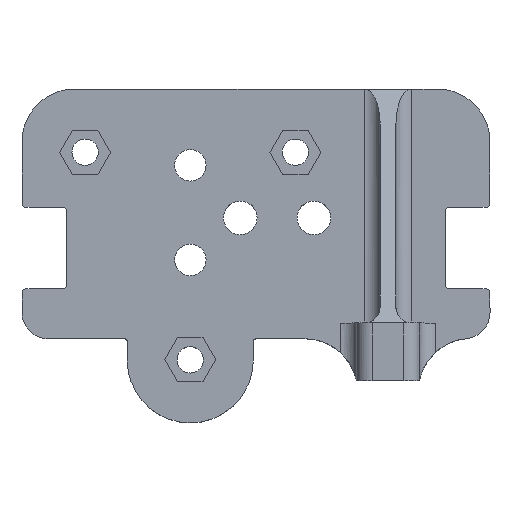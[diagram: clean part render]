
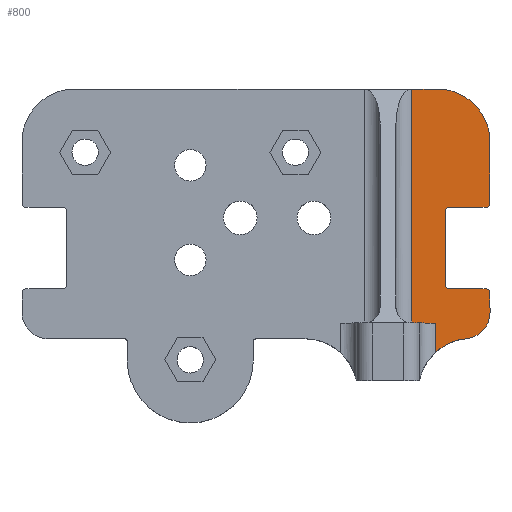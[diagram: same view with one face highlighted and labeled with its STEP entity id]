
A CAD part, top view. The second image highlights one B-rep face of the part: STEP entity #800.
In plain terms, the highlighted planar face has unit normal (0, 0, 1).
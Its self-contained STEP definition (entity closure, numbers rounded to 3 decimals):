
#33 = ORIENTED_EDGE ( 'NONE', *, *, #2331, .T. ) ;
#51 = VECTOR ( 'NONE', #2644, 1000. ) ;
#81 = VERTEX_POINT ( 'NONE', #2176 ) ;
#118 = LINE ( 'NONE', #2879, #51 ) ;
#152 = ORIENTED_EDGE ( 'NONE', *, *, #287, .T. ) ;
#189 = DIRECTION ( 'NONE',  ( 1., 0., 0. ) ) ;
#190 = VERTEX_POINT ( 'NONE', #263 ) ;
#263 = CARTESIAN_POINT ( 'NONE',  ( 36., -13.5, 8. ) ) ;
#286 = AXIS2_PLACEMENT_3D ( 'NONE', #2821, #1043, #297 ) ;
#287 = EDGE_CURVE ( 'NONE', #2500, #2749, #1357, .T. ) ;
#297 = DIRECTION ( 'NONE',  ( 1., 0., 0. ) ) ;
#343 = ORIENTED_EDGE ( 'NONE', *, *, #2914, .T. ) ;
#345 = CARTESIAN_POINT ( 'NONE',  ( 39.5, -18.75, 8. ) ) ;
#381 = VECTOR ( 'NONE', #607, 1000. ) ;
#402 = LINE ( 'NONE', #3190, #2514 ) ;
#466 = EDGE_CURVE ( 'NONE', #490, #3237, #2118, .T. ) ;
#472 = DIRECTION ( 'NONE',  ( -1., 0., 0. ) ) ;
#476 = ORIENTED_EDGE ( 'NONE', *, *, #525, .T. ) ;
#490 = VERTEX_POINT ( 'NONE', #3160 ) ;
#511 = ORIENTED_EDGE ( 'NONE', *, *, #466, .F. ) ;
#525 = EDGE_CURVE ( 'NONE', #1648, #190, #1800, .T. ) ;
#543 = AXIS2_PLACEMENT_3D ( 'NONE', #615, #809, #1362 ) ;
#555 = AXIS2_PLACEMENT_3D ( 'NONE', #345, #1343, #676 ) ;
#607 = DIRECTION ( 'NONE',  ( -1., 0., 0. ) ) ;
#615 = CARTESIAN_POINT ( 'NONE',  ( 36.75, -13.5, 8. ) ) ;
#642 = CARTESIAN_POINT ( 'NONE',  ( 44.5, 2., 8. ) ) ;
#676 = DIRECTION ( 'NONE',  ( 1., 0., 0. ) ) ;
#699 = CARTESIAN_POINT ( 'NONE',  ( 44.5, 2., 8. ) ) ;
#702 = EDGE_CURVE ( 'NONE', #2464, #3237, #118, .T. ) ;
#725 = EDGE_CURVE ( 'NONE', #81, #2464, #834, .T. ) ;
#734 = LINE ( 'NONE', #699, #2564 ) ;
#758 = VERTEX_POINT ( 'NONE', #849 ) ;
#765 = DIRECTION ( 'NONE',  ( -1., 0., 0. ) ) ;
#766 = CARTESIAN_POINT ( 'NONE',  ( 44.5, -18.75, 8. ) ) ;
#800 = ADVANCED_FACE ( 'NONE', ( #3012 ), #2465, .T. ) ;
#808 = VECTOR ( 'NONE', #765, 1000. ) ;
#809 = DIRECTION ( 'NONE',  ( 0., 0., -1. ) ) ;
#834 = LINE ( 'NONE', #3168, #381 ) ;
#849 = CARTESIAN_POINT ( 'NONE',  ( 39.97, -23.728, 8. ) ) ;
#862 = AXIS2_PLACEMENT_3D ( 'NONE', #943, #2993, #1463 ) ;
#867 = AXIS2_PLACEMENT_3D ( 'NONE', #3041, #1770, #1514 ) ;
#881 = CARTESIAN_POINT ( 'NONE',  ( 44.5, -15., 8. ) ) ;
#929 = EDGE_CURVE ( 'NONE', #3221, #1992, #734, .T. ) ;
#943 = CARTESIAN_POINT ( 'NONE',  ( 36.75, 0.5, 8. ) ) ;
#959 = AXIS2_PLACEMENT_3D ( 'NONE', #1404, #2445, #189 ) ;
#963 = AXIS2_PLACEMENT_3D ( 'NONE', #1941, #2493, #472 ) ;
#1005 = CARTESIAN_POINT ( 'NONE',  ( 41., -14.25, 8. ) ) ;
#1029 = LINE ( 'NONE', #1005, #808 ) ;
#1041 = DIRECTION ( 'NONE',  ( 0., 1., 0. ) ) ;
#1043 = DIRECTION ( 'NONE',  ( 0., 0., 1. ) ) ;
#1053 = CARTESIAN_POINT ( 'NONE',  ( 31.1, -20.75, 8. ) ) ;
#1072 = VERTEX_POINT ( 'NONE', #2625 ) ;
#1165 = CARTESIAN_POINT ( 'NONE',  ( 36., 0.5, 8. ) ) ;
#1167 = EDGE_CURVE ( 'NONE', #1977, #2840, #1596, .T. ) ;
#1180 = CIRCLE ( 'NONE', #867, 0.75 ) ;
#1288 = EDGE_CURVE ( 'NONE', #2840, #1072, #2177, .T. ) ;
#1292 = ORIENTED_EDGE ( 'NONE', *, *, #3122, .T. ) ;
#1307 = CARTESIAN_POINT ( 'NONE',  ( 36., 0.5, 8. ) ) ;
#1317 = ORIENTED_EDGE ( 'NONE', *, *, #1420, .T. ) ;
#1343 = DIRECTION ( 'NONE',  ( 0., 0., 1. ) ) ;
#1357 = LINE ( 'NONE', #2435, #2555 ) ;
#1362 = DIRECTION ( 'NONE',  ( -1., 0., 0. ) ) ;
#1365 = EDGE_CURVE ( 'NONE', #1992, #81, #1810, .T. ) ;
#1404 = CARTESIAN_POINT ( 'NONE',  ( -34.5, 13.75, 8. ) ) ;
#1420 = EDGE_CURVE ( 'NONE', #3087, #1648, #1029, .T. ) ;
#1427 = EDGE_CURVE ( 'NONE', #1072, #3221, #1180, .T. ) ;
#1429 = CARTESIAN_POINT ( 'NONE',  ( 36.75, 1.25, 8. ) ) ;
#1463 = DIRECTION ( 'NONE',  ( 1., 0., 0. ) ) ;
#1514 = DIRECTION ( 'NONE',  ( -1., 0., 0. ) ) ;
#1532 = ORIENTED_EDGE ( 'NONE', *, *, #1288, .T. ) ;
#1541 = CIRCLE ( 'NONE', #555, 5. ) ;
#1558 = LINE ( 'NONE', #1307, #2608 ) ;
#1592 = EDGE_LOOP ( 'NONE', ( #2551, #3050, #511, #343, #33, #1292, #152, #1768, #1317, #476, #2375, #2022, #1532, #2998, #2330, #2621 ) ) ;
#1596 = CIRCLE ( 'NONE', #862, 0.75 ) ;
#1648 = VERTEX_POINT ( 'NONE', #2988 ) ;
#1697 = VECTOR ( 'NONE', #2622, 1000. ) ;
#1768 = ORIENTED_EDGE ( 'NONE', *, *, #2376, .T. ) ;
#1770 = DIRECTION ( 'NONE',  ( 0., 0., 1. ) ) ;
#1774 = DIRECTION ( 'NONE',  ( 0., 1., 0. ) ) ;
#1800 = CIRCLE ( 'NONE', #543, 0.75 ) ;
#1810 = CIRCLE ( 'NONE', #286, 10. ) ;
#1851 = EDGE_CURVE ( 'NONE', #190, #1977, #1558, .T. ) ;
#1925 = CARTESIAN_POINT ( 'NONE',  ( 43.75, 1.25, 8. ) ) ;
#1941 = CARTESIAN_POINT ( 'NONE',  ( 43.75, -15., 8. ) ) ;
#1962 = CARTESIAN_POINT ( 'NONE',  ( 29.6, -20.75, 8. ) ) ;
#1977 = VERTEX_POINT ( 'NONE', #1165 ) ;
#1992 = VERTEX_POINT ( 'NONE', #2204 ) ;
#2022 = ORIENTED_EDGE ( 'NONE', *, *, #1167, .T. ) ;
#2026 = VECTOR ( 'NONE', #3215, 1000. ) ;
#2118 = LINE ( 'NONE', #1053, #1697 ) ;
#2135 = CARTESIAN_POINT ( 'NONE',  ( 43.75, -14.25, 8. ) ) ;
#2176 = CARTESIAN_POINT ( 'NONE',  ( 34.5, 23.75, 8. ) ) ;
#2177 = LINE ( 'NONE', #1925, #2026 ) ;
#2204 = CARTESIAN_POINT ( 'NONE',  ( 44.5, 13.75, 8. ) ) ;
#2225 = CARTESIAN_POINT ( 'NONE',  ( 29.6, 23.75, 8. ) ) ;
#2294 = CIRCLE ( 'NONE', #2506, 10. ) ;
#2330 = ORIENTED_EDGE ( 'NONE', *, *, #929, .T. ) ;
#2331 = EDGE_CURVE ( 'NONE', #2434, #758, #2294, .T. ) ;
#2375 = ORIENTED_EDGE ( 'NONE', *, *, #1851, .T. ) ;
#2376 = EDGE_CURVE ( 'NONE', #2749, #3087, #2563, .T. ) ;
#2434 = VERTEX_POINT ( 'NONE', #3196 ) ;
#2435 = CARTESIAN_POINT ( 'NONE',  ( 44.5, -18.75, 8. ) ) ;
#2445 = DIRECTION ( 'NONE',  ( 0., 0., 1. ) ) ;
#2464 = VERTEX_POINT ( 'NONE', #2225 ) ;
#2465 = PLANE ( 'NONE',  #959 ) ;
#2493 = DIRECTION ( 'NONE',  ( 0., 0., 1. ) ) ;
#2500 = VERTEX_POINT ( 'NONE', #766 ) ;
#2506 = AXIS2_PLACEMENT_3D ( 'NONE', #2958, #2994, #2691 ) ;
#2514 = VECTOR ( 'NONE', #2939, 1000. ) ;
#2551 = ORIENTED_EDGE ( 'NONE', *, *, #725, .T. ) ;
#2555 = VECTOR ( 'NONE', #1041, 1000. ) ;
#2563 = CIRCLE ( 'NONE', #963, 0.75 ) ;
#2564 = VECTOR ( 'NONE', #1774, 1000. ) ;
#2585 = DIRECTION ( 'NONE',  ( 0., 1., 0. ) ) ;
#2608 = VECTOR ( 'NONE', #2585, 1000. ) ;
#2621 = ORIENTED_EDGE ( 'NONE', *, *, #1365, .T. ) ;
#2622 = DIRECTION ( 'NONE',  ( -1., 0., 0. ) ) ;
#2625 = CARTESIAN_POINT ( 'NONE',  ( 43.75, 1.25, 8. ) ) ;
#2644 = DIRECTION ( 'NONE',  ( 0., -1., 0. ) ) ;
#2691 = DIRECTION ( 'NONE',  ( 1., 0., 0. ) ) ;
#2749 = VERTEX_POINT ( 'NONE', #881 ) ;
#2821 = CARTESIAN_POINT ( 'NONE',  ( 34.5, 13.75, 8. ) ) ;
#2840 = VERTEX_POINT ( 'NONE', #1429 ) ;
#2879 = CARTESIAN_POINT ( 'NONE',  ( 29.6, 13.75, 8. ) ) ;
#2914 = EDGE_CURVE ( 'NONE', #490, #2434, #402, .T. ) ;
#2939 = DIRECTION ( 'NONE',  ( 0., -1., 0. ) ) ;
#2958 = CARTESIAN_POINT ( 'NONE',  ( 40.911, -33.683, 8. ) ) ;
#2988 = CARTESIAN_POINT ( 'NONE',  ( 36.75, -14.25, 8. ) ) ;
#2993 = DIRECTION ( 'NONE',  ( 0., 0., -1. ) ) ;
#2994 = DIRECTION ( 'NONE',  ( 0., 0., -1. ) ) ;
#2998 = ORIENTED_EDGE ( 'NONE', *, *, #1427, .T. ) ;
#3012 = FACE_OUTER_BOUND ( 'NONE', #1592, .T. ) ;
#3041 = CARTESIAN_POINT ( 'NONE',  ( 43.75, 2., 8. ) ) ;
#3050 = ORIENTED_EDGE ( 'NONE', *, *, #702, .T. ) ;
#3087 = VERTEX_POINT ( 'NONE', #2135 ) ;
#3122 = EDGE_CURVE ( 'NONE', #758, #2500, #1541, .T. ) ;
#3160 = CARTESIAN_POINT ( 'NONE',  ( 34.1, -20.75, 8. ) ) ;
#3168 = CARTESIAN_POINT ( 'NONE',  ( 34.5, 23.75, 8. ) ) ;
#3190 = CARTESIAN_POINT ( 'NONE',  ( 34.1, 13.75, 8. ) ) ;
#3196 = CARTESIAN_POINT ( 'NONE',  ( 34.1, -26.362, 8. ) ) ;
#3215 = DIRECTION ( 'NONE',  ( 1., 0., 0. ) ) ;
#3221 = VERTEX_POINT ( 'NONE', #642 ) ;
#3237 = VERTEX_POINT ( 'NONE', #1962 ) ;
